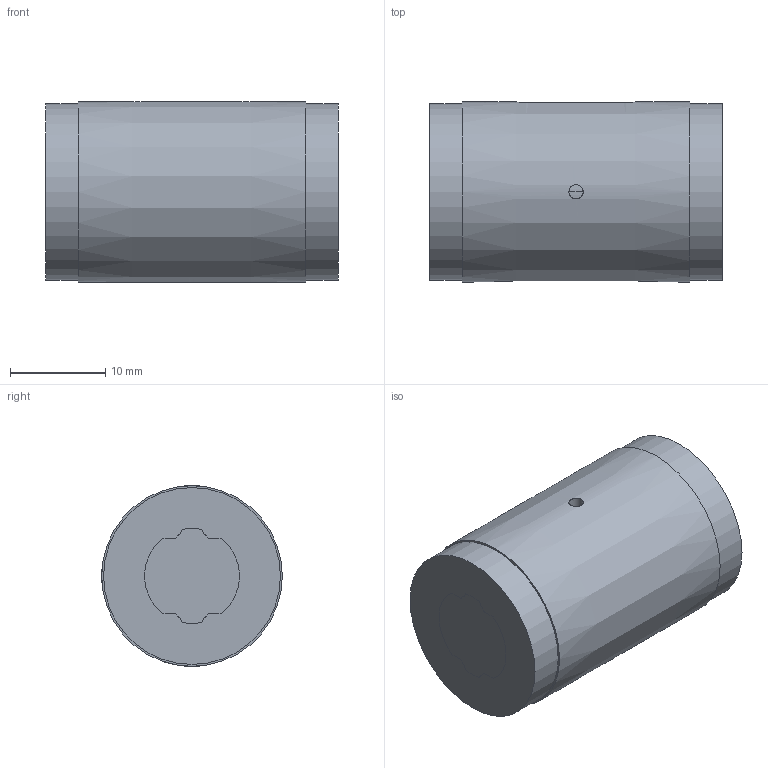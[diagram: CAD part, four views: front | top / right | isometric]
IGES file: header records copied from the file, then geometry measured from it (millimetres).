
Start section: Data from Parasolid IGES Translator 26.0.171, Copyright(c) 2006 Siemens PLM Software. All Rights Reserved.
Global section: file name: LT10X+30.8L(00).igs; native system: By Siemens PLM Incorporated; preprocessor: XPlus GENERIC/IGES 26.0.171; author: Noname; organization: Noname; date: 20240528.070732; units: millimetre
Bounding box: 30.8 x 19 x 19 mm (x, y, z)
Surface area: 4475.2 mm2 (no closed solid volume)
Topology: 0 solids, 0 shells, 66 faces, 362 edges, 356 vertices
Faces by surface type: revolution 41, extrusion 25
